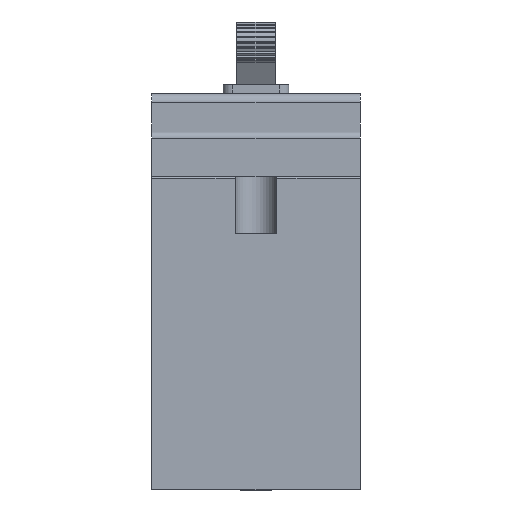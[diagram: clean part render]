
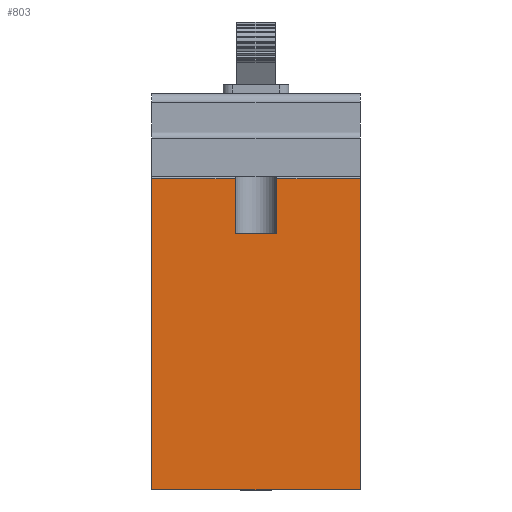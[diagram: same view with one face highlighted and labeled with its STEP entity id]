
A CAD part, front view. The second image highlights one B-rep face of the part: STEP entity #803.
In plain terms, the highlighted planar face has unit normal (0, -1, 0).
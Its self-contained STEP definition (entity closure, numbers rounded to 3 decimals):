
#77 = CARTESIAN_POINT ( 'NONE',  ( 3.5, -40., 5.6 ) ) ;
#268 = VECTOR ( 'NONE', #298, 1000. ) ;
#298 = DIRECTION ( 'NONE',  ( 0., 0., 1. ) ) ;
#322 = DIRECTION ( 'NONE',  ( -1., 0., 0. ) ) ;
#357 = CARTESIAN_POINT ( 'NONE',  ( 3.5, -40., 14.8 ) ) ;
#372 = EDGE_CURVE ( 'NONE', #2397, #440, #2536, .T. ) ;
#440 = VERTEX_POINT ( 'NONE', #2135 ) ;
#738 = DIRECTION ( 'NONE',  ( 0., 0., 1. ) ) ;
#803 = ADVANCED_FACE ( 'NONE', ( #4185 ), #1001, .T. ) ;
#891 = EDGE_CURVE ( 'NONE', #3878, #4580, #3039, .T. ) ;
#920 = VECTOR ( 'NONE', #1406, 1000. ) ;
#982 = VECTOR ( 'NONE', #322, 1000. ) ;
#1001 = PLANE ( 'NONE',  #4231 ) ;
#1054 = DIRECTION ( 'NONE',  ( 0., -1., 0. ) ) ;
#1114 = LINE ( 'NONE', #1966, #3837 ) ;
#1348 = VECTOR ( 'NONE', #1675, 1000. ) ;
#1406 = DIRECTION ( 'NONE',  ( -1., 0., 0. ) ) ;
#1541 = VECTOR ( 'NONE', #1720, 1000. ) ;
#1601 = CARTESIAN_POINT ( 'NONE',  ( 17.5, -40., 14.8 ) ) ;
#1675 = DIRECTION ( 'NONE',  ( -1., 0., 0. ) ) ;
#1679 = LINE ( 'NONE', #5062, #5072 ) ;
#1720 = DIRECTION ( 'NONE',  ( -1., 0., 0. ) ) ;
#1837 = ORIENTED_EDGE ( 'NONE', *, *, #4425, .F. ) ;
#1899 = CARTESIAN_POINT ( 'NONE',  ( -3.5, -40., 5.6 ) ) ;
#1925 = DIRECTION ( 'NONE',  ( 0., 0., -1. ) ) ;
#1966 = CARTESIAN_POINT ( 'NONE',  ( -3.5, -40., -14.911 ) ) ;
#2135 = CARTESIAN_POINT ( 'NONE',  ( -17.5, -40., -37.4 ) ) ;
#2397 = VERTEX_POINT ( 'NONE', #3916 ) ;
#2434 = CARTESIAN_POINT ( 'NONE',  ( 3.5, -40., -14.911 ) ) ;
#2492 = CARTESIAN_POINT ( 'NONE',  ( 17.5, -40., -37.4 ) ) ;
#2536 = LINE ( 'NONE', #2492, #1348 ) ;
#2716 = ORIENTED_EDGE ( 'NONE', *, *, #3596, .T. ) ;
#2920 = ORIENTED_EDGE ( 'NONE', *, *, #891, .F. ) ;
#3032 = ORIENTED_EDGE ( 'NONE', *, *, #3849, .T. ) ;
#3039 = LINE ( 'NONE', #2434, #268 ) ;
#3056 = ORIENTED_EDGE ( 'NONE', *, *, #3067, .T. ) ;
#3067 = EDGE_CURVE ( 'NONE', #3123, #4095, #1114, .T. ) ;
#3123 = VERTEX_POINT ( 'NONE', #1899 ) ;
#3212 = CARTESIAN_POINT ( 'NONE',  ( 17.5, -40., 0. ) ) ;
#3255 = EDGE_CURVE ( 'NONE', #4095, #5516, #4988, .T. ) ;
#3315 = DIRECTION ( 'NONE',  ( 0., 0., 1. ) ) ;
#3320 = CARTESIAN_POINT ( 'NONE',  ( 17.5, -40., 14.8 ) ) ;
#3551 = ORIENTED_EDGE ( 'NONE', *, *, #3255, .T. ) ;
#3596 = EDGE_CURVE ( 'NONE', #3878, #3123, #5477, .T. ) ;
#3650 = LINE ( 'NONE', #3933, #1541 ) ;
#3837 = VECTOR ( 'NONE', #5455, 1000. ) ;
#3849 = EDGE_CURVE ( 'NONE', #5428, #4580, #3650, .T. ) ;
#3878 = VERTEX_POINT ( 'NONE', #77 ) ;
#3916 = CARTESIAN_POINT ( 'NONE',  ( 17.5, -40., -37.4 ) ) ;
#3933 = CARTESIAN_POINT ( 'NONE',  ( 17.5, -40., 14.8 ) ) ;
#4035 = CARTESIAN_POINT ( 'NONE',  ( 3.5, -40., 5.6 ) ) ;
#4095 = VERTEX_POINT ( 'NONE', #4508 ) ;
#4185 = FACE_OUTER_BOUND ( 'NONE', #4831, .T. ) ;
#4231 = AXIS2_PLACEMENT_3D ( 'NONE', #3212, #1054, #1925 ) ;
#4425 = EDGE_CURVE ( 'NONE', #440, #5516, #1679, .T. ) ;
#4426 = ORIENTED_EDGE ( 'NONE', *, *, #372, .F. ) ;
#4508 = CARTESIAN_POINT ( 'NONE',  ( -3.5, -40., 14.8 ) ) ;
#4580 = VERTEX_POINT ( 'NONE', #357 ) ;
#4831 = EDGE_LOOP ( 'NONE', ( #2920, #2716, #3056, #3551, #1837, #4426, #5381, #3032 ) ) ;
#4988 = LINE ( 'NONE', #3320, #982 ) ;
#5000 = VECTOR ( 'NONE', #738, 1000. ) ;
#5020 = CARTESIAN_POINT ( 'NONE',  ( 17.5, -40., 0. ) ) ;
#5062 = CARTESIAN_POINT ( 'NONE',  ( -17.5, -40., 0. ) ) ;
#5072 = VECTOR ( 'NONE', #3315, 1000. ) ;
#5140 = CARTESIAN_POINT ( 'NONE',  ( -17.5, -40., 14.8 ) ) ;
#5381 = ORIENTED_EDGE ( 'NONE', *, *, #5634, .T. ) ;
#5417 = LINE ( 'NONE', #5020, #5000 ) ;
#5428 = VERTEX_POINT ( 'NONE', #1601 ) ;
#5455 = DIRECTION ( 'NONE',  ( 0., 0., 1. ) ) ;
#5477 = LINE ( 'NONE', #4035, #920 ) ;
#5516 = VERTEX_POINT ( 'NONE', #5140 ) ;
#5634 = EDGE_CURVE ( 'NONE', #2397, #5428, #5417, .T. ) ;
